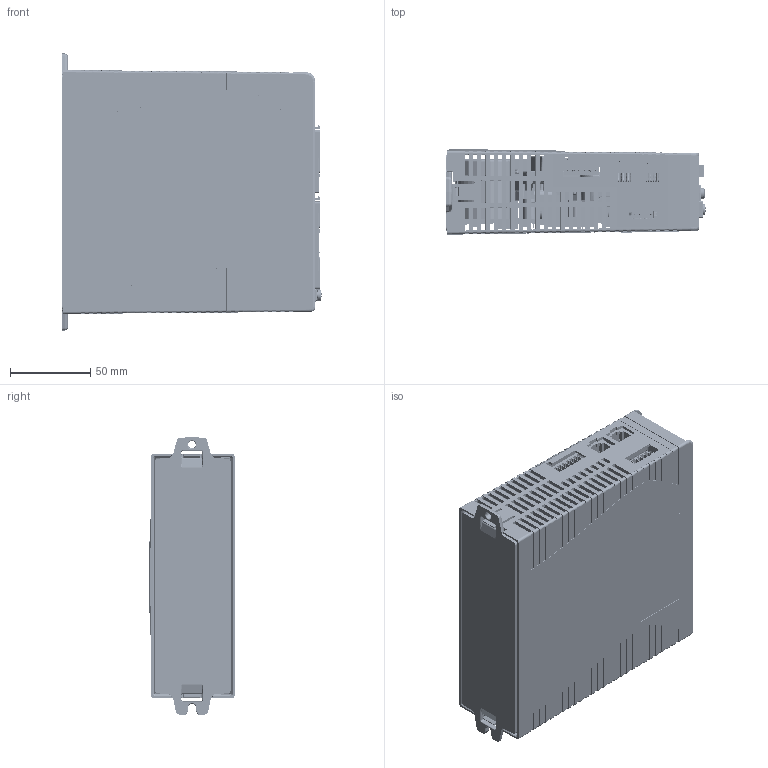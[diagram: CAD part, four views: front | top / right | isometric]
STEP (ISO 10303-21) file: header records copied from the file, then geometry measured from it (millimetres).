
FILE_DESCRIPTION (( 'STEP AP214' ), '1' );
FILE_NAME ('CDHD2S-4D5-006A-ASS.STEP', '2024-04-13T01:05:46', ( '' ), ( '' ), 'SwSTEP 2.0', 'SolidWorks 2016', '' );
FILE_SCHEMA (( 'AUTOMOTIVE_DESIGN' ));
Length unit declared in the file: millimetre
Products named in the file (49): ____; SCRr000000M4-11; _____; ______; 5000750517; CONr00000036-12; CBLrFFC98266-08_for CDHD2 MV6A; CONr00000020-16; IPMrFP30R06W-00_FP30R06W1E3 _ INFINEON; display board_retro_170214; MECrCD2S00601-00; LED DIGIT  DISPLAY - NINGBO-FYS-3911AX_BX-XX-1; SCRr000000M4-02; pan head cross recess screw_din_ISO 7045 - M2 x 6 - Z --- 6N; CDHD2S-4D5-006A-ASS; FANr00900006-00; HESrCASR25NP-00; CONr00000040-40; DEFAULT-1_HSEC8; jack-t3005007pin; KAN0241H-0350H_轻触开关_轩立; 15edgrc-3_5-06p-14-03a_h_; TRFr00003237-02; LEXrCD2S00601-00-cemian; SCRr000000M3-44_SEMS SCR  M3x6mm WITH INT TOOTH LOCK WASHER ZINC; CAPr00000567-04; 15EDGRN-3.5-04P-14-00A(H); ___--_3_5_; R9CPA06M-01; PRDr9HCSAF1z; PRDr9HPA06MA; MB24________; HSKrCD2S006MV01-00-A0; TRFr00050317-07; CONr00000026-25; TRFr00003237-00; _C-188-02-Pin-10-01; jack-t3005004pin; TRFr00050317-06; _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
Assembly tree (58 placements, depth 5):
  CDHD2S-4D5-006A-ASS
    IPMrFP30R06W-00_FP30R06W1E3 _ INFINEON
    PRDr9HPA06MA
      CONr00000040-40
      TRFr00003237-00
      TRFr00050317-06
      HESrCASR25NP-00  x2
      CBLrFFC98266-08_for CDHD2 MV6A
      R9CPA06M-01
      TRFr00003237-02
      TRFr00050317-07
      CAPr00000567-04  x2
      jack-t3005004pin
      jack-t3005007pin
      15EDGRN-3.5-04P-14-00A(H)
    SCRr000000M3-44_SEMS SCR  M3x6mm WITH INT TOOTH LOCK WASHER ZINC  x4
    FANr00900006-00
      FANrAD0612HB-00
    SCRr000000M4-02  x2
    SCRr000000M4-11  x2
    MECrCD2S00601-00
    display board_retro_170214
      LED DIGIT  DISPLAY - NINGBO-FYS-3911AX_BX-XX-1
      ROTERY SW  Grayhill 94HAB10RAT-1  x2
      VERTICAL EDGE RATE CARD SOCKET HSEC8-DV
        HSEC8-110-01-SM-DV-A
          _C-188-02-Pin-10-01
        DEFAULT-1_HSEC8
      5000750517
      pan head cross recess screw_din_ISO 7045 - M2 x 6 - Z --- 6N
      PALBOREG- SM6403005
    PRDr9HCSAF1z
      PCB-R9HCSC01-03
      CONr00000040-40
      CONr00000036-12
      CONr00000026-25
      CONr0000RJ45-23  x2
      CONr00000020-16
      15edgrc-3_5-06p-14-03a_h_
      KAN0241H-0350H_轻触开关_轩立
        ______1
        _____
        ______
        ____
        MB24________
        _
        ___--_3_5_
    LEXrCD2S00601-00-cemian
    LEXrCD2S00601-00-top
    HSKrCD2S006MV01-00-A0
Bounding box: 161.92 x 53.23 x 173.23 mm (x, y, z)
Volume: 445594.4 mm3; surface area: 444601.9 mm2
Topology: 1389 solids, 1470 shells, 33153 faces, 86816 edges, 56389 vertices
Faces by surface type: plane 24073, cylinder 5626, bspline 2625, cone 667, torus 144, sphere 18
Entity records: 1236625 total; most frequent: CARTESIAN_POINT 401783, ORIENTED_EDGE 145026, DIRECTION 117677, EDGE_CURVE 72513, VECTOR 54499, LINE 54499, VERTEX_POINT 47382, AXIS2_PLACEMENT_3D 31589
